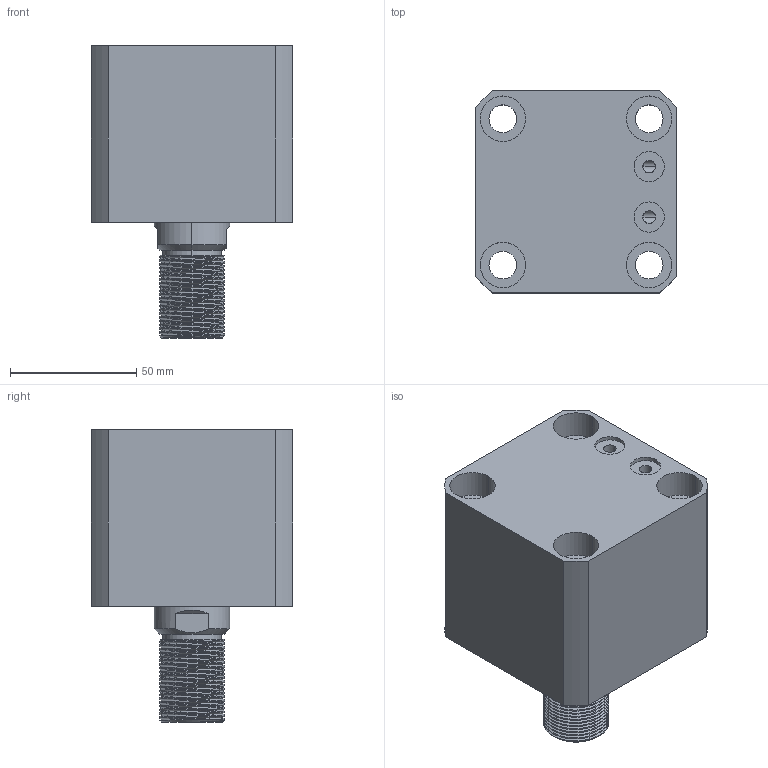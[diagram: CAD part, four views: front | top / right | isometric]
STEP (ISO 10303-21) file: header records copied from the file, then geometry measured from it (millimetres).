
FILE_DESCRIPTION (( 'STEP AP203' ), '1' );
FILE_NAME ('CHTB-SDMB50-10W.STEP', '2018-05-19T03:30:02', ( '' ), ( '' ), 'SwSTEP 2.0', 'SolidWorks 2015', '' );
FILE_SCHEMA (( 'CONFIG_CONTROL_DESIGN' ));
Length unit declared in the file: millimetre
Products named in the file (5): CHTB-SDMB50-10W; CHTM-SDMA50QG; 活塞杆SDMB50-10W; 掛极SDMB50-10W; M6
Assembly tree (5 placements, depth 2):
  CHTB-SDMB50-10W
    掛极SDMB50-10W
    活塞杆SDMB50-10W
    CHTM-SDMA50QG
    M6  x2
Bounding box: 80 x 80 x 116 mm (x, y, z)
Volume: 407542.2 mm3; surface area: 89614.8 mm2
Topology: 5 solids, 5 shells, 307 faces, 825 edges, 549 vertices
Faces by surface type: cylinder 175, plane 58, cone 30, bspline 28, torus 16
Entity records: 17812 total; most frequent: CARTESIAN_POINT 11032, ORIENTED_EDGE 1456, DIRECTION 1138, EDGE_CURVE 728, VERTEX_POINT 488, AXIS2_PLACEMENT_3D 457, EDGE_LOOP 314, ADVANCED_FACE 272
